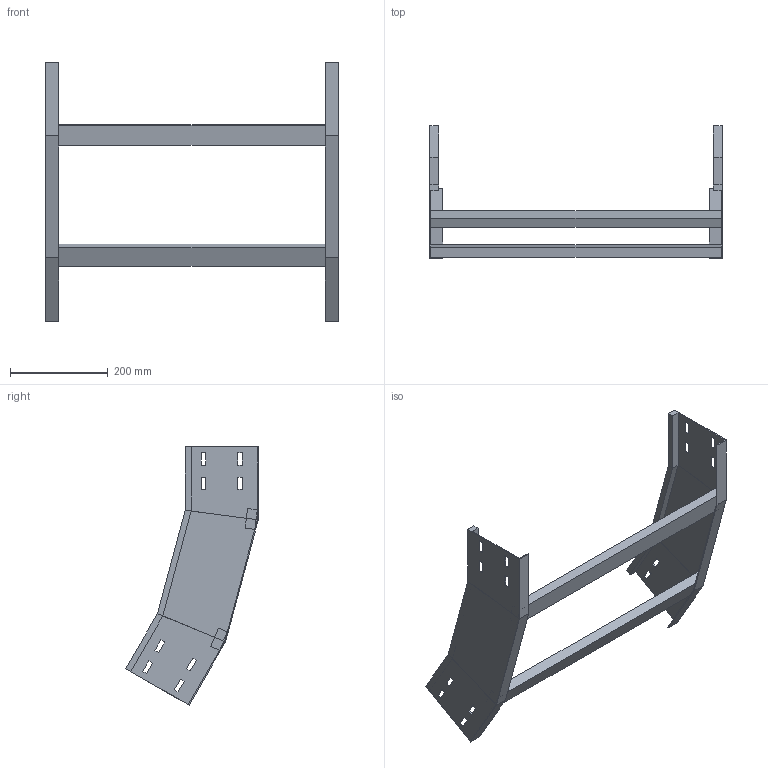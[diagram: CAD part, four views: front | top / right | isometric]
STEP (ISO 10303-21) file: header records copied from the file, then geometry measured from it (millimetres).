
FILE_DESCRIPTION (( 'STEP AP214' ), '1' );
FILE_NAME ('32J5F600.step', '2025-02-21T16:25:54', ( '' ), ( '' ), 'SwSTEP 2.0', 'SolidWorks 2023', '' );
FILE_SCHEMA (( 'AUTOMOTIVE_DESIGN' ));
Length unit declared in the file: millimetre
Products named in the file (3): 32J5F600; TRAVERSINO_600; LONGH.SALITA_30°_H150_R500
Assembly tree (4 placements, depth 2):
  32J5F600
    LONGH.SALITA_30°_H150_R500  x2
    TRAVERSINO_600  x2
Bounding box: 600 x 271.94 x 530.08 mm (x, y, z)
Volume: 1511406.5 mm3; surface area: 547244.7 mm2
Topology: 4 solids, 4 shells, 128 faces, 328 edges, 208 vertices
Faces by surface type: plane 128
Entity records: 2016 total; most frequent: CARTESIAN_POINT 339, ORIENTED_EDGE 328, DIRECTION 306, EDGE_CURVE 164, VECTOR 164, LINE 164, VERTEX_POINT 104, EDGE_LOOP 80
